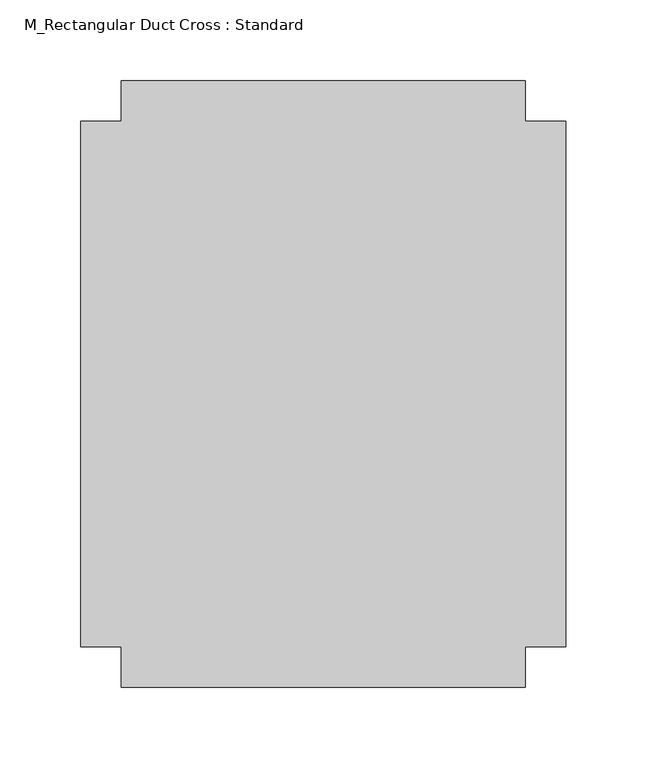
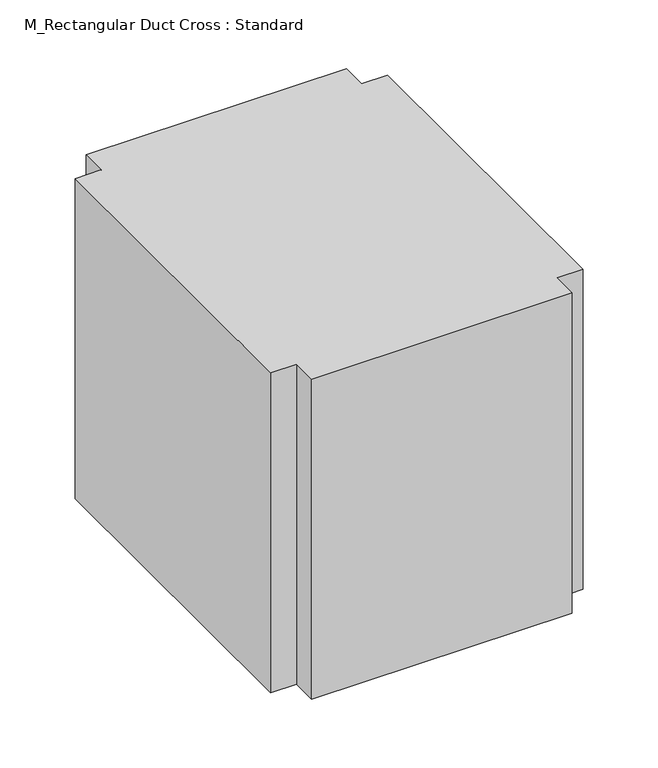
"""IFC4 building model written with IfcOpenShell, lengths in millimetres: duct fitting geometry, M_Rectangular Duct Cross : Standard."""

import ifcopenshell
import ifcopenshell.guid

model = None  # the IFC model being written
_history = None  # IfcOwnerHistory: only IFC2X3 demands one
_inside = {}  # id of a spatial element -> (the spatial element, [elements in it])
_under = {}  # id of a project, library or spatial element -> (it, [spatial elements below it])
_declared = {}  # id of a project -> (the project, [libraries it declares])
_typed = {}  # id of a type object -> (the type object, [elements of that type])
_made_of = {}  # id of a material, layer set ... -> (it, [elements and type objects made of it])


def new_model(schema):
    """Start an empty IFC model of exactly this schema.

    Asked for "IFC4X3", IfcOpenShell would pick the latest addendum, in which some entities
    have other attributes; the version numbers below select the first issue.
    IFC2X3 requires an IfcOwnerHistory on every rooted entity: one is made here for all.
    """
    global model, _history
    if schema == "IFC4X3":
        model = ifcopenshell.file(schema_version=(4, 3, 0, 0))
    else:
        model = ifcopenshell.file(schema=schema)
    _inside.clear()
    _under.clear()
    _declared.clear()
    _typed.clear()
    _made_of.clear()
    _history = None
    if model.schema == "IFC2X3":
        org = make("IfcOrganization", Name="unknown")
        user = make(
            "IfcPersonAndOrganization",
            ThePerson=make("IfcPerson", FamilyName="unknown"),
            TheOrganization=org,
        )
        app = make(
            "IfcApplication",
            ApplicationDeveloper=org,
            Version="unknown",
            ApplicationFullName="unknown",
            ApplicationIdentifier="unknown",
        )
        _history = make(
            "IfcOwnerHistory",
            OwningUser=user,
            OwningApplication=app,
            ChangeAction="ADDED",
            CreationDate=0,
        )
    return model


def make(cls, **values):
    """One entity of the class cls with the attributes given. An attribute that is None is left unset."""
    return model.create_entity(
        cls, **{name: value for name, value in values.items() if value is not None}
    )


def rooted(cls, **values):
    """An entity with a GlobalId (a new one), such as an element, a storey or a relation."""
    return make(cls, GlobalId=ifcopenshell.guid.new(), OwnerHistory=_history, **values)


def si_unit(unit_type, name, prefix=None):
    """IfcSIUnit, for example si_unit("LENGTHUNIT", "METRE", prefix="MILLI")."""
    return make("IfcSIUnit", UnitType=unit_type, Prefix=prefix, Name=name)


def assignment(units):
    """IfcUnitAssignment: the units of a project."""
    return None if units is None else make("IfcUnitAssignment", Units=units)


def point(xyz):
    """IfcCartesianPoint."""
    return None if xyz is None else make("IfcCartesianPoint", Coordinates=xyz)


def direction(xyz):
    """IfcDirection."""
    return None if xyz is None else make("IfcDirection", DirectionRatios=xyz)


def frame(location, z_axis=None, x_axis=None):
    """IfcAxis2Placement3D, a coordinate frame: its origin and axes. An axis left out is left unset."""
    return make(
        "IfcAxis2Placement3D",
        Location=point(location),
        Axis=direction(z_axis),
        RefDirection=direction(x_axis),
    )


def origin():
    """The frame at (0, 0, 0) with its axes left unset."""
    return frame((0.0, 0.0, 0.0))


def place(relative_to, where):
    """IfcLocalPlacement: puts the frame where relative to a parent placement (None: the world)."""
    return make(
        "IfcLocalPlacement", PlacementRelTo=relative_to, RelativePlacement=where
    )


def context(
    kind, dimensions, precision=None, world=None, true_north=None, identifier=None
):
    """IfcGeometricRepresentationContext, for example the 3D "Model" context."""
    return make(
        "IfcGeometricRepresentationContext",
        ContextIdentifier=identifier,
        ContextType=kind,
        CoordinateSpaceDimension=dimensions,
        Precision=precision,
        WorldCoordinateSystem=world,
        TrueNorth=true_north,
    )


def project(units=None, contexts=None):
    """IfcProject with its units and contexts."""
    return rooted(
        "IfcProject",
        Name="project",
        RepresentationContexts=contexts,
        UnitsInContext=assignment(units),
    )


def spatial(cls, under=None, at=None, **own):
    """A site, building, storey or space (cls), placed at a placement, below another one or the project."""
    s = rooted(cls, ObjectPlacement=at, **own)
    if under is not None:
        _under.setdefault(under.id(), (under, []))[1].append(s)
    return s


def polyline(points):
    """IfcPolyline through the points."""
    return make("IfcPolyline", Points=[point(p) for p in points])


def outline(outer, holes=None, kind="AREA"):
    """IfcArbitraryClosedProfileDef: a profile drawn as a closed curve; with holes, ...WithVoids."""
    if holes is None:
        return make("IfcArbitraryClosedProfileDef", ProfileType=kind, OuterCurve=outer)
    return make(
        "IfcArbitraryProfileDefWithVoids",
        ProfileType=kind,
        OuterCurve=outer,
        InnerCurves=holes,
    )


def extrude(swept, where, along, depth):
    """IfcExtrudedAreaSolid: the profile swept, set in the frame where, extruded along a direction by depth."""
    return make(
        "IfcExtrudedAreaSolid",
        SweptArea=swept,
        Position=where,
        ExtrudedDirection=direction(along),
        Depth=depth,
    )


def shape(context_of_items, identifier, shape_type, items):
    """IfcShapeRepresentation: the items that make up one representation, for example the "Body"."""
    return make(
        "IfcShapeRepresentation",
        ContextOfItems=context_of_items,
        RepresentationIdentifier=identifier,
        RepresentationType=shape_type,
        Items=items,
    )


def source(mapping_origin, context_of_items, identifier, shape_type, items):
    """IfcRepresentationMap: a shape defined once, which mapped items show again and again."""
    return make(
        "IfcRepresentationMap",
        MappingOrigin=mapping_origin,
        MappedRepresentation=shape(context_of_items, identifier, shape_type, items),
    )


def transform(
    local_origin,
    x_axis=None,
    y_axis=None,
    z_axis=None,
    scale=None,
    scale2=None,
    scale3=None,
    uniform=True,
):
    """IfcCartesianTransformationOperator3D, or its non-uniform kind. x_axis, y_axis, z_axis: its Axis1, 2, 3."""
    if uniform:
        return make(
            "IfcCartesianTransformationOperator3D",
            Axis1=direction(x_axis),
            Axis2=direction(y_axis),
            LocalOrigin=point(local_origin),
            Scale=scale,
            Axis3=direction(z_axis),
        )
    return make(
        "IfcCartesianTransformationOperator3DnonUniform",
        Axis1=direction(x_axis),
        Axis2=direction(y_axis),
        LocalOrigin=point(local_origin),
        Scale=scale,
        Axis3=direction(z_axis),
        Scale2=scale2,
        Scale3=scale3,
    )


def mapped(mapping_source, mapping_target):
    """IfcMappedItem: shows the shape of a source again, moved by a transform."""
    return make(
        "IfcMappedItem", MappingSource=mapping_source, MappingTarget=mapping_target
    )


def made_of(thing, what):
    """Note that an element or type object is made of a material, layer set ...; save() writes the relation."""
    if what is not None:
        _made_of.setdefault(what.id(), (what, []))[1].append(thing)
    return thing


def element(
    cls,
    number,
    at=None,
    inside=None,
    cuts=None,
    type_object=None,
    material=None,
    context=None,
    identifier="Body",
    shape_type=None,
    held_by="IfcProductDefinitionShape",
    body=None,
    shapes=None,
    **own,
):
    """One element of the class cls, such as IfcWall. Its Tag is "e" and its number.

    at: its placement. inside: the storey or other place that contains it. cuts: it is an
    opening in that element (IfcRelVoidsElement). A single representation is given by context,
    identifier, shape_type and body (its items); several are given by shapes. held_by: the class
    of the entity that holds the representations. save() writes the other relations.
    """
    e = rooted(cls, Tag="e%d" % number, ObjectPlacement=at, **own)
    if body is not None:
        shapes = [shape(context, identifier, shape_type, body)]
    if shapes is not None:
        e.Representation = make(held_by, Representations=shapes)
    if inside is not None:
        _inside.setdefault(inside.id(), (inside, []))[1].append(e)
    if cuts is not None:
        rooted(
            "IfcRelVoidsElement", RelatingBuildingElement=cuts, RelatedOpeningElement=e
        )
    if type_object is not None:
        _typed.setdefault(type_object.id(), (type_object, []))[1].append(e)
    return made_of(e, material)


def aggregate(whole, parts):
    """IfcRelAggregates: a whole, such as a stair, and the parts it consists of."""
    return rooted("IfcRelAggregates", RelatingObject=whole, RelatedObjects=parts)


def save(model, path):
    """Write the relations noted so far, then the file.

    IfcRelAggregates (storeys below a building ...), IfcRelContainedInSpatialStructure (elements
    in a storey), IfcRelDefinesByType, IfcRelAssociatesMaterial and IfcRelDeclares: one each for
    every whole, place, type object, material and project.
    """
    for whole, parts in _under.values():
        aggregate(whole, parts)
    for where, things in _inside.values():
        rooted(
            "IfcRelContainedInSpatialStructure",
            RelatedElements=things,
            RelatingStructure=where,
        )
    for kind, things in _typed.values():
        rooted("IfcRelDefinesByType", RelatedObjects=things, RelatingType=kind)
    for what, things in _made_of.values():
        rooted("IfcRelAssociatesMaterial", RelatedObjects=things, RelatingMaterial=what)
    for by, libraries in _declared.values():
        rooted("IfcRelDeclares", RelatingContext=by, RelatedDefinitions=libraries)
    model.write(path)


def m_rectangular_duct_cross_standard_d3c43166(model_context):
    return source(origin(), model_context, "Body", "SweptSolid", [
        extrude(outline(polyline([(-125.0, 187.5), (125.0, 187.5), (125.0, 162.5), (150.0, 162.5), (150.0, -162.5), (125.0, -162.5), (125.0, -187.5), (-125.0, -187.5), (-125.0, -162.5), (-150.0, -162.5), (-150.0, 162.5), (-125.0, 162.5), (-125.0, 187.5)])), frame((0.0, 0.0, -162.5), z_axis=(0.0, 0.0, 1.0), x_axis=(1.0, 0.0, 0.0)), (0.0, 0.0, 1.0), 325.0),
        extrude(outline(polyline([(-125.0, 187.5), (125.0, 187.5), (125.0, 162.5), (150.0, 162.5), (150.0, -162.5), (125.0, -162.5), (125.0, -187.5), (-125.0, -187.5), (-125.0, -162.5), (-150.0, -162.5), (-150.0, 162.5), (-125.0, 162.5), (-125.0, 187.5)])), frame((0.0, 0.0, -162.5), z_axis=(0.0, 0.0, 1.0), x_axis=(1.0, 0.0, 0.0)), (0.0, 0.0, 1.0), 325.0),
        extrude(outline(polyline([(125.0, -187.5), (-125.0, -187.5), (-125.0, -162.5), (-150.0, -162.5), (-150.0, 162.5), (-125.0, 162.5), (-125.0, 187.5), (125.0, 187.5), (125.0, 162.5), (150.0, 162.5), (150.0, -162.5), (125.0, -162.5), (125.0, -187.5)])), frame((0.0, 0.0, -162.5), z_axis=(0.0, 0.0, 1.0), x_axis=(1.0, 0.0, 0.0)), (0.0, 0.0, 1.0), 325.0),
    ])


if __name__ == "__main__":
    model = new_model("IFC4")
    model_context = context("Model", 3, world=origin())
    ifc_project = project(units=[si_unit("LENGTHUNIT", "METRE", prefix="MILLI")], contexts=[model_context])
    site = spatial("IfcSite", under=ifc_project)
    building = spatial("IfcBuilding", under=site)
    placement = place(None, origin())
    m_rectangular_duct_cross_standard_shape = m_rectangular_duct_cross_standard_d3c43166(model_context)
    element("IfcDuctFitting", 1, ObjectType="M_Rectangular Duct Cross : Standard", at=placement, inside=building, context=model_context, shape_type="MappedRepresentation", body=[
        mapped(m_rectangular_duct_cross_standard_shape, transform((0.0, 0.0, 0.0), x_axis=(1.0, 0.0, 0.0), y_axis=(0.0, 1.0, 0.0), z_axis=(0.0, 0.0, 1.0))),
    ])
    save(model, "model.ifc")
